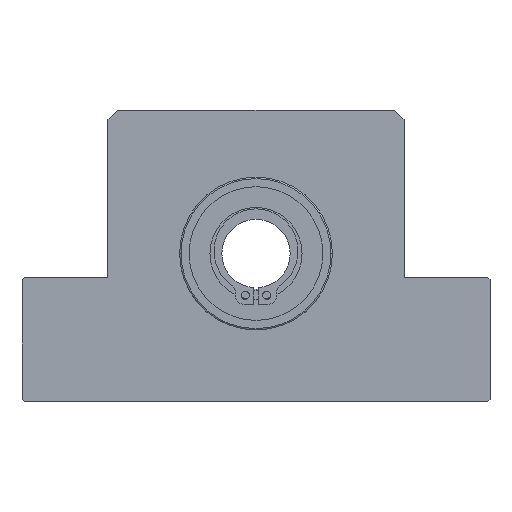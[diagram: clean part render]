
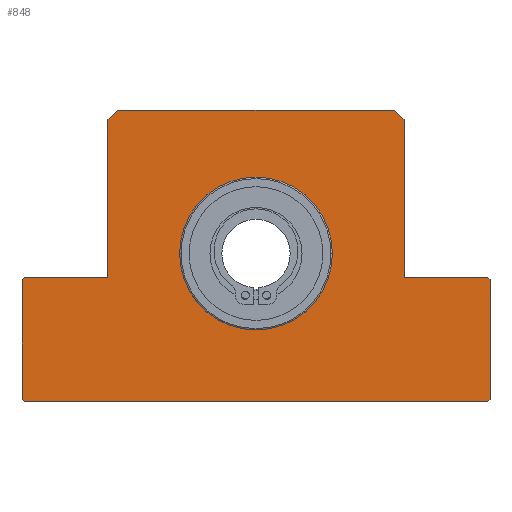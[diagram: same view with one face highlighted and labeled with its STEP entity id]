
A CAD part, top view. The second image highlights one B-rep face of the part: STEP entity #848.
In plain terms, the highlighted planar face has unit normal (0, 0, 1).
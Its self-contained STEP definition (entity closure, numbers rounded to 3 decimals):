
#13 = CARTESIAN_POINT ( 'NONE',  ( 49., -30.5, 20. ) ) ;
#49 = VERTEX_POINT ( 'NONE', #606 ) ;
#70 = LINE ( 'NONE', #2552, #1309 ) ;
#152 = CARTESIAN_POINT ( 'NONE',  ( 31., -5., 20. ) ) ;
#157 = LINE ( 'NONE', #954, #1413 ) ;
#172 = CIRCLE ( 'NONE', #1470, 16. ) ;
#179 = EDGE_CURVE ( 'NONE', #2815, #676, #3258, .T. ) ;
#222 = DIRECTION ( 'NONE',  ( 0., 1., 0. ) ) ;
#248 = EDGE_LOOP ( 'NONE', ( #2545, #2658 ) ) ;
#253 = VERTEX_POINT ( 'NONE', #1949 ) ;
#268 = AXIS2_PLACEMENT_3D ( 'NONE', #2812, #1996, #664 ) ;
#325 = VERTEX_POINT ( 'NONE', #13 ) ;
#336 = CARTESIAN_POINT ( 'NONE',  ( 31., 28., 20. ) ) ;
#367 = LINE ( 'NONE', #1403, #482 ) ;
#398 = DIRECTION ( 'NONE',  ( -1., 0., 0. ) ) ;
#405 = DIRECTION ( 'NONE',  ( 1., 0., 0. ) ) ;
#416 = DIRECTION ( 'NONE',  ( -1., 0., 0. ) ) ;
#429 = DIRECTION ( 'NONE',  ( 0., 1., 0. ) ) ;
#450 = ORIENTED_EDGE ( 'NONE', *, *, #917, .T. ) ;
#459 = DIRECTION ( 'NONE',  ( 1., 0., 0. ) ) ;
#475 = LINE ( 'NONE', #3067, #781 ) ;
#482 = VECTOR ( 'NONE', #2977, 1000. ) ;
#503 = EDGE_CURVE ( 'NONE', #253, #2815, #1891, .T. ) ;
#555 = CARTESIAN_POINT ( 'NONE',  ( 48.5, -5., 20. ) ) ;
#586 = VERTEX_POINT ( 'NONE', #1686 ) ;
#594 = EDGE_CURVE ( 'NONE', #1465, #2908, #1125, .T. ) ;
#605 = ORIENTED_EDGE ( 'NONE', *, *, #2485, .T. ) ;
#606 = CARTESIAN_POINT ( 'NONE',  ( -31., -5., 20. ) ) ;
#621 = ORIENTED_EDGE ( 'NONE', *, *, #2279, .T. ) ;
#647 = VECTOR ( 'NONE', #222, 1000. ) ;
#664 = DIRECTION ( 'NONE',  ( 1., 0., 0. ) ) ;
#676 = VERTEX_POINT ( 'NONE', #2460 ) ;
#687 = DIRECTION ( 'NONE',  ( -0.707, -0.707, 0. ) ) ;
#689 = CARTESIAN_POINT ( 'NONE',  ( -48.5, -31., 20. ) ) ;
#715 = CARTESIAN_POINT ( 'NONE',  ( 31., -5., 20. ) ) ;
#732 = ORIENTED_EDGE ( 'NONE', *, *, #2931, .T. ) ;
#781 = VECTOR ( 'NONE', #2846, 1000. ) ;
#788 = VERTEX_POINT ( 'NONE', #2063 ) ;
#848 = ADVANCED_FACE ( 'NONE', ( #2513, #2291 ), #2739, .T. ) ;
#868 = CIRCLE ( 'NONE', #3255, 16. ) ;
#877 = VECTOR ( 'NONE', #922, 1000. ) ;
#881 = CARTESIAN_POINT ( 'NONE',  ( -31., 28., 20. ) ) ;
#916 = LINE ( 'NONE', #881, #3153 ) ;
#917 = EDGE_CURVE ( 'NONE', #49, #2598, #1874, .T. ) ;
#922 = DIRECTION ( 'NONE',  ( -0.707, 0.707, 0. ) ) ;
#951 = DIRECTION ( 'NONE',  ( 0., 0., 1. ) ) ;
#954 = CARTESIAN_POINT ( 'NONE',  ( -48.5, -5., 20. ) ) ;
#959 = LINE ( 'NONE', #715, #1410 ) ;
#1016 = DIRECTION ( 'NONE',  ( 0., -1., 0. ) ) ;
#1121 = LINE ( 'NONE', #3172, #1137 ) ;
#1125 = LINE ( 'NONE', #2725, #2112 ) ;
#1137 = VECTOR ( 'NONE', #2900, 1000. ) ;
#1150 = LINE ( 'NONE', #1933, #877 ) ;
#1153 = VERTEX_POINT ( 'NONE', #1924 ) ;
#1164 = CARTESIAN_POINT ( 'NONE',  ( 29., 30., 20. ) ) ;
#1272 = EDGE_LOOP ( 'NONE', ( #2639, #2352, #1472, #2471, #2741, #1940, #1307, #450, #605, #732, #621, #2113, #2891, #2103 ) ) ;
#1294 = VERTEX_POINT ( 'NONE', #689 ) ;
#1298 = VECTOR ( 'NONE', #1858, 1000. ) ;
#1307 = ORIENTED_EDGE ( 'NONE', *, *, #3252, .T. ) ;
#1309 = VECTOR ( 'NONE', #1016, 1000. ) ;
#1385 = DIRECTION ( 'NONE',  ( -0.707, 0.707, 0. ) ) ;
#1403 = CARTESIAN_POINT ( 'NONE',  ( -48.5, -31., 20. ) ) ;
#1410 = VECTOR ( 'NONE', #429, 1000. ) ;
#1413 = VECTOR ( 'NONE', #1428, 1000. ) ;
#1428 = DIRECTION ( 'NONE',  ( -0.707, -0.707, 0. ) ) ;
#1465 = VERTEX_POINT ( 'NONE', #555 ) ;
#1468 = CARTESIAN_POINT ( 'NONE',  ( 0., 0., 20. ) ) ;
#1470 = AXIS2_PLACEMENT_3D ( 'NONE', #2119, #951, #405 ) ;
#1472 = ORIENTED_EDGE ( 'NONE', *, *, #3329, .T. ) ;
#1490 = VERTEX_POINT ( 'NONE', #2399 ) ;
#1494 = CARTESIAN_POINT ( 'NONE',  ( -48.5, -5., 20. ) ) ;
#1579 = CARTESIAN_POINT ( 'NONE',  ( -31., -5., 20. ) ) ;
#1676 = CARTESIAN_POINT ( 'NONE',  ( -29., 30., 20. ) ) ;
#1686 = CARTESIAN_POINT ( 'NONE',  ( -16., 0., 20. ) ) ;
#1858 = DIRECTION ( 'NONE',  ( -1., 0., 0. ) ) ;
#1874 = LINE ( 'NONE', #1579, #1298 ) ;
#1891 = LINE ( 'NONE', #336, #3026 ) ;
#1924 = CARTESIAN_POINT ( 'NONE',  ( -49., -30.5, 20. ) ) ;
#1933 = CARTESIAN_POINT ( 'NONE',  ( 49., -5.5, 20. ) ) ;
#1940 = ORIENTED_EDGE ( 'NONE', *, *, #2800, .T. ) ;
#1949 = CARTESIAN_POINT ( 'NONE',  ( 31., 28., 20. ) ) ;
#1996 = DIRECTION ( 'NONE',  ( 0., 0., 1. ) ) ;
#2000 = VECTOR ( 'NONE', #416, 1000. ) ;
#2003 = LINE ( 'NONE', #3042, #647 ) ;
#2038 = EDGE_CURVE ( 'NONE', #586, #2613, #868, .T. ) ;
#2063 = CARTESIAN_POINT ( 'NONE',  ( -31., 28., 20. ) ) ;
#2103 = ORIENTED_EDGE ( 'NONE', *, *, #3003, .T. ) ;
#2112 = VECTOR ( 'NONE', #398, 1000. ) ;
#2113 = ORIENTED_EDGE ( 'NONE', *, *, #3256, .T. ) ;
#2119 = CARTESIAN_POINT ( 'NONE',  ( 0., 0., 20. ) ) ;
#2183 = EDGE_CURVE ( 'NONE', #3086, #325, #475, .T. ) ;
#2279 = EDGE_CURVE ( 'NONE', #1153, #1294, #1121, .T. ) ;
#2291 = FACE_BOUND ( 'NONE', #248, .T. ) ;
#2345 = VECTOR ( 'NONE', #687, 1000. ) ;
#2352 = ORIENTED_EDGE ( 'NONE', *, *, #594, .T. ) ;
#2399 = CARTESIAN_POINT ( 'NONE',  ( 49., -5.5, 20. ) ) ;
#2410 = DIRECTION ( 'NONE',  ( 0., -1., 0. ) ) ;
#2460 = CARTESIAN_POINT ( 'NONE',  ( -29., 30., 20. ) ) ;
#2471 = ORIENTED_EDGE ( 'NONE', *, *, #503, .T. ) ;
#2485 = EDGE_CURVE ( 'NONE', #2598, #3286, #157, .T. ) ;
#2513 = FACE_OUTER_BOUND ( 'NONE', #1272, .T. ) ;
#2538 = CARTESIAN_POINT ( 'NONE',  ( 16., 0., 20. ) ) ;
#2545 = ORIENTED_EDGE ( 'NONE', *, *, #2038, .F. ) ;
#2552 = CARTESIAN_POINT ( 'NONE',  ( -49., -5.5, 20. ) ) ;
#2598 = VERTEX_POINT ( 'NONE', #1494 ) ;
#2613 = VERTEX_POINT ( 'NONE', #2538 ) ;
#2639 = ORIENTED_EDGE ( 'NONE', *, *, #2907, .T. ) ;
#2658 = ORIENTED_EDGE ( 'NONE', *, *, #2793, .F. ) ;
#2725 = CARTESIAN_POINT ( 'NONE',  ( 48.5, -5., 20. ) ) ;
#2739 = PLANE ( 'NONE',  #268 ) ;
#2741 = ORIENTED_EDGE ( 'NONE', *, *, #179, .T. ) ;
#2784 = CARTESIAN_POINT ( 'NONE',  ( 48.5, -31., 20. ) ) ;
#2793 = EDGE_CURVE ( 'NONE', #2613, #586, #172, .T. ) ;
#2796 = DIRECTION ( 'NONE',  ( 0., 0., 1. ) ) ;
#2800 = EDGE_CURVE ( 'NONE', #676, #788, #3292, .T. ) ;
#2812 = CARTESIAN_POINT ( 'NONE',  ( 0., 0., 20. ) ) ;
#2815 = VERTEX_POINT ( 'NONE', #3263 ) ;
#2846 = DIRECTION ( 'NONE',  ( 0.707, 0.707, 0. ) ) ;
#2891 = ORIENTED_EDGE ( 'NONE', *, *, #2183, .T. ) ;
#2900 = DIRECTION ( 'NONE',  ( 0.707, -0.707, 0. ) ) ;
#2907 = EDGE_CURVE ( 'NONE', #1490, #1465, #1150, .T. ) ;
#2908 = VERTEX_POINT ( 'NONE', #152 ) ;
#2931 = EDGE_CURVE ( 'NONE', #3286, #1153, #70, .T. ) ;
#2977 = DIRECTION ( 'NONE',  ( 1., 0., 0. ) ) ;
#3003 = EDGE_CURVE ( 'NONE', #325, #1490, #2003, .T. ) ;
#3026 = VECTOR ( 'NONE', #1385, 1000. ) ;
#3042 = CARTESIAN_POINT ( 'NONE',  ( 49., -30.5, 20. ) ) ;
#3067 = CARTESIAN_POINT ( 'NONE',  ( 48.5, -31., 20. ) ) ;
#3086 = VERTEX_POINT ( 'NONE', #2784 ) ;
#3153 = VECTOR ( 'NONE', #2410, 1000. ) ;
#3172 = CARTESIAN_POINT ( 'NONE',  ( -49., -30.5, 20. ) ) ;
#3252 = EDGE_CURVE ( 'NONE', #788, #49, #916, .T. ) ;
#3255 = AXIS2_PLACEMENT_3D ( 'NONE', #1468, #2796, #459 ) ;
#3256 = EDGE_CURVE ( 'NONE', #1294, #3086, #367, .T. ) ;
#3258 = LINE ( 'NONE', #1164, #2000 ) ;
#3263 = CARTESIAN_POINT ( 'NONE',  ( 29., 30., 20. ) ) ;
#3286 = VERTEX_POINT ( 'NONE', #3318 ) ;
#3292 = LINE ( 'NONE', #1676, #2345 ) ;
#3318 = CARTESIAN_POINT ( 'NONE',  ( -49., -5.5, 20. ) ) ;
#3329 = EDGE_CURVE ( 'NONE', #2908, #253, #959, .T. ) ;
